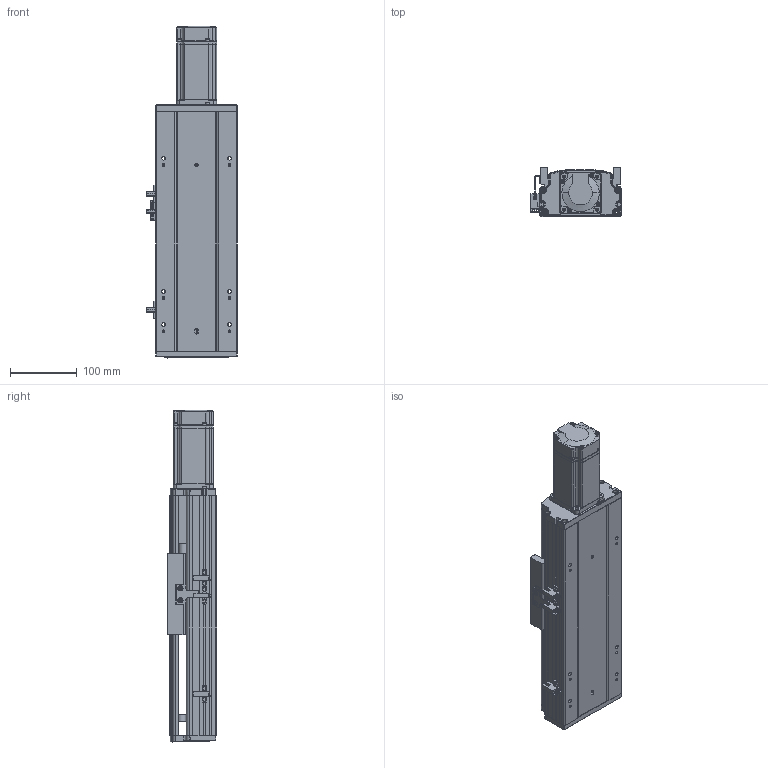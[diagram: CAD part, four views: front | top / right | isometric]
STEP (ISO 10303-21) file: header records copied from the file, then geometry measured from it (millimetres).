
FILE_DESCRIPTION (( 'STEP AP203' ), '1' );
FILE_NAME ('RY120Q-L1610-500-MK.SLDASM_0100.step', '2021-05-19T01:44:12', ( '盈信电脑' ), ( '东莞市道滘镇水果街19号' ), 'SwSTEP 2.0', 'SolidWorks 2016', '' );
FILE_SCHEMA (( 'CONFIG_CONTROL_DESIGN' ));
Length unit declared in the file: millimetre
Products named in the file (14): RY120-500-MK倰第菁釱_0100; 滅袉蝶18-10; 滅袉蝶18-15; 侂狟400W侜督萇儂; 鞠褒坶踡蹟譫BK12 ; 覜茼ん672; 15; RY120铝滑块16丝杆（FK12）; RY120-500-MK倰第奻裔啣_0100; RY120Q-L1610-500-MK.SLDASM_0100; RY120綴裔啣; RY120外置感应片(140共用）; RY120萇儂釱FK12; RY120QGB-1.8
Assembly tree (16 placements, depth 3):
  RY120Q-L1610-500-MK.SLDASM_0100
    RY120-500-MK倰第菁釱_0100
    RY120-500-MK倰第奻裔啣_0100
    侂狟400W侜督萇儂
      15
    鞠褒坶踡蹟譫BK12 
    RY120綴裔啣
    覜茼ん672  x3
    滅袉蝶18-10
    滅袉蝶18-15  x2
    RY120外置感应片(140共用）
    RY120QGB-1.8
    RY120铝滑块16丝杆（FK12）
    RY120萇儂釱FK12
Bounding box: 135.7 x 74 x 498.5 mm (x, y, z)
Volume: 1656058 mm3; surface area: 510894.5 mm2
Topology: 16 solids, 16 shells, 2026 faces, 5535 edges, 3548 vertices
Faces by surface type: plane 989, cylinder 741, cone 195, bspline 101
Entity records: 65839 total; most frequent: CARTESIAN_POINT 17995, ORIENTED_EDGE 9878, DIRECTION 9371, EDGE_CURVE 4939, VERTEX_POINT 3216, AXIS2_PLACEMENT_3D 3192, VECTOR 2987, LINE 2987
